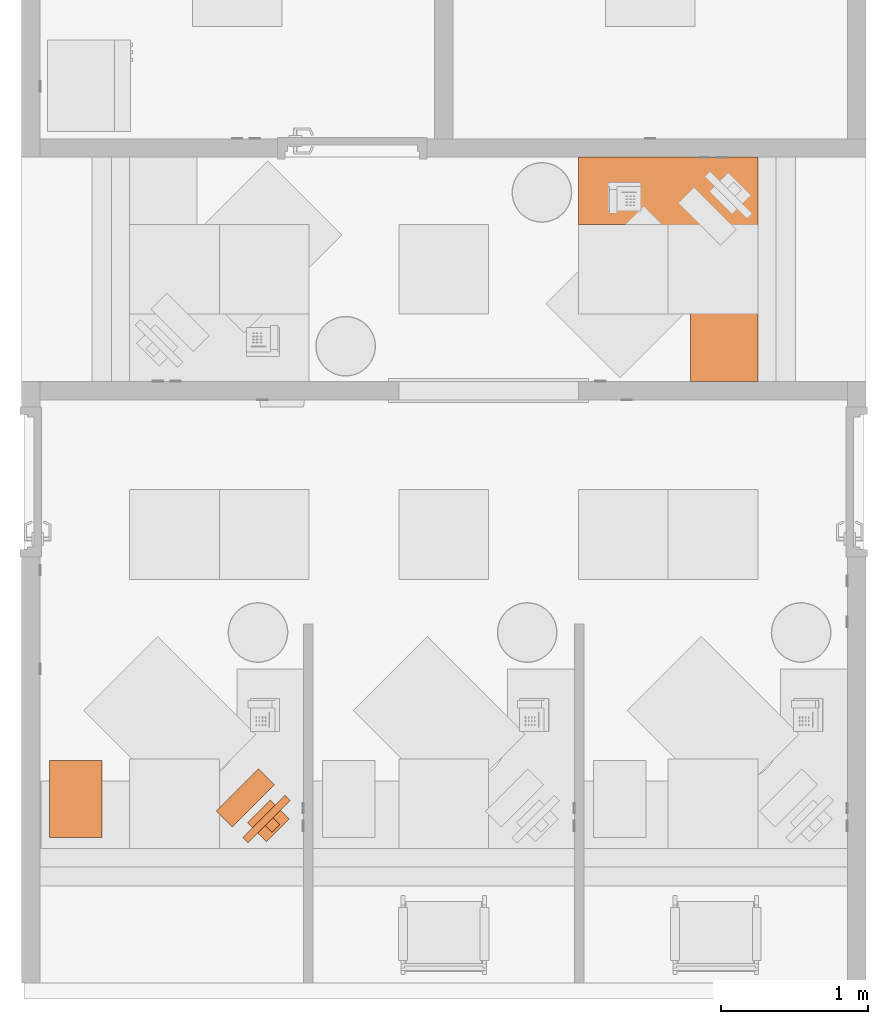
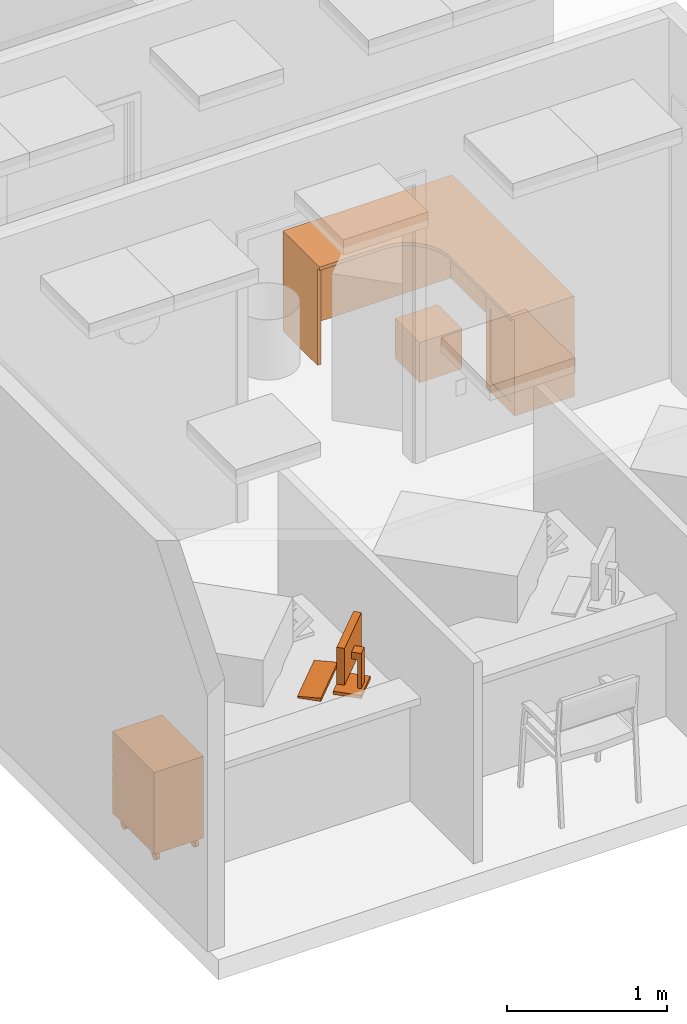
# One storey, part 12 of 20: 3 proxies.
"""IFC2X3 building model written with IfcOpenShell, lengths in feet."""

import ifcopenshell
import ifcopenshell.guid

model = None  # the IFC model being written
_history = None  # IfcOwnerHistory: only IFC2X3 demands one
_inside = {}  # id of a spatial element -> (the spatial element, [elements in it])
_under = {}  # id of a project, library or spatial element -> (it, [spatial elements below it])
_declared = {}  # id of a project -> (the project, [libraries it declares])
_typed = {}  # id of a type object -> (the type object, [elements of that type])
_made_of = {}  # id of a material, layer set ... -> (it, [elements and type objects made of it])


def new_model(schema):
    """Start an empty IFC model of exactly this schema.

    Asked for "IFC4X3", IfcOpenShell would pick the latest addendum, in which some entities
    have other attributes; the version numbers below select the first issue.
    IFC2X3 requires an IfcOwnerHistory on every rooted entity: one is made here for all.
    """
    global model, _history
    if schema == "IFC4X3":
        model = ifcopenshell.file(schema_version=(4, 3, 0, 0))
    else:
        model = ifcopenshell.file(schema=schema)
    _inside.clear()
    _under.clear()
    _declared.clear()
    _typed.clear()
    _made_of.clear()
    _history = None
    if model.schema == "IFC2X3":
        org = make("IfcOrganization", Name="unknown")
        user = make(
            "IfcPersonAndOrganization",
            ThePerson=make("IfcPerson", FamilyName="unknown"),
            TheOrganization=org,
        )
        app = make(
            "IfcApplication",
            ApplicationDeveloper=org,
            Version="unknown",
            ApplicationFullName="unknown",
            ApplicationIdentifier="unknown",
        )
        _history = make(
            "IfcOwnerHistory",
            OwningUser=user,
            OwningApplication=app,
            ChangeAction="ADDED",
            CreationDate=0,
        )
    return model


def make(cls, **values):
    """One entity of the class cls with the attributes given. An attribute that is None is left unset."""
    return model.create_entity(
        cls, **{name: value for name, value in values.items() if value is not None}
    )


def entity(cls, *values):
    """Any entity or typed value of the class cls, its attributes in the order of the schema. None: left unset."""
    e = model.create_entity(cls)
    for i, value in enumerate(values):
        if value is not None:
            e[i] = value
    return e


def rooted(cls, **values):
    """An entity with a GlobalId (a new one), such as an element, a storey or a relation."""
    return make(cls, GlobalId=ifcopenshell.guid.new(), OwnerHistory=_history, **values)


def si_unit(unit_type, name, prefix=None):
    """IfcSIUnit, for example si_unit("LENGTHUNIT", "METRE", prefix="MILLI")."""
    return make("IfcSIUnit", UnitType=unit_type, Prefix=prefix, Name=name)


def converted_unit(unit_type, name, factor, base, dimensions=None, offset=None):
    """IfcConversionBasedUnit, such as the inch: factor (a typed value) times the base unit."""
    return make(
        "IfcConversionBasedUnit"
        if offset is None
        else "IfcConversionBasedUnitWithOffset",
        ConversionOffset=offset,
        Dimensions=None
        if dimensions is None
        else entity("IfcDimensionalExponents", *dimensions),
        UnitType=unit_type,
        Name=name,
        ConversionFactor=make(
            "IfcMeasureWithUnit", ValueComponent=factor, UnitComponent=base
        ),
    )


def derived_unit(unit_type, elements):
    """IfcDerivedUnit: a product of units, each with its exponent."""
    return make(
        "IfcDerivedUnit",
        Elements=[
            make("IfcDerivedUnitElement", Unit=unit, Exponent=power)
            for unit, power in elements
        ],
        UnitType=unit_type,
    )


def assignment(units):
    """IfcUnitAssignment: the units of a project."""
    return None if units is None else make("IfcUnitAssignment", Units=units)


def point(xyz):
    """IfcCartesianPoint."""
    return None if xyz is None else make("IfcCartesianPoint", Coordinates=xyz)


def direction(xyz):
    """IfcDirection."""
    return None if xyz is None else make("IfcDirection", DirectionRatios=xyz)


def frame(location, z_axis=None, x_axis=None):
    """IfcAxis2Placement3D, a coordinate frame: its origin and axes. An axis left out is left unset."""
    return make(
        "IfcAxis2Placement3D",
        Location=point(location),
        Axis=direction(z_axis),
        RefDirection=direction(x_axis),
    )


def frame_2d(location, x_axis=None):
    """IfcAxis2Placement2D, a coordinate frame in the plane: its origin and x axis."""
    return make(
        "IfcAxis2Placement2D", Location=point(location), RefDirection=direction(x_axis)
    )


def origin():
    """The frame at (0, 0, 0) with its axes left unset."""
    return frame((0.0, 0.0, 0.0))


def place(relative_to, where):
    """IfcLocalPlacement: puts the frame where relative to a parent placement (None: the world)."""
    return make(
        "IfcLocalPlacement", PlacementRelTo=relative_to, RelativePlacement=where
    )


def context(
    kind, dimensions, precision=None, world=None, true_north=None, identifier=None
):
    """IfcGeometricRepresentationContext, for example the 3D "Model" context."""
    return make(
        "IfcGeometricRepresentationContext",
        ContextIdentifier=identifier,
        ContextType=kind,
        CoordinateSpaceDimension=dimensions,
        Precision=precision,
        WorldCoordinateSystem=world,
        TrueNorth=true_north,
    )


def subcontext(parent, identifier, kind, view, scale=None):
    """IfcGeometricRepresentationSubContext, for example "Body" below "Model"."""
    return make(
        "IfcGeometricRepresentationSubContext",
        ContextIdentifier=identifier,
        ContextType=kind,
        ParentContext=parent,
        TargetScale=scale,
        TargetView=view,
    )


def project(units=None, contexts=None):
    """IfcProject with its units and contexts."""
    return rooted(
        "IfcProject",
        Name="project",
        RepresentationContexts=contexts,
        UnitsInContext=assignment(units),
    )


def spatial(cls, under=None, at=None, **own):
    """A site, building, storey or space (cls), placed at a placement, below another one or the project."""
    s = rooted(cls, ObjectPlacement=at, **own)
    if under is not None:
        _under.setdefault(under.id(), (under, []))[1].append(s)
    return s


def polyline(points):
    """IfcPolyline through the points."""
    return make("IfcPolyline", Points=[point(p) for p in points])


def circle_curve(where, radius):
    """IfcCircle in the frame where."""
    return make("IfcCircle", Position=where, Radius=radius)


def parameter(value):
    """IfcParameterValue: where a trimmed curve begins or ends, as a parameter of its basis curve."""
    return model.create_entity("IfcParameterValue", value)


def trimmed(basis, trim1, trim2, sense, master):
    """IfcTrimmedCurve: the piece of a basis curve between two trims."""
    return make(
        "IfcTrimmedCurve",
        BasisCurve=basis,
        Trim1=trim1,
        Trim2=trim2,
        SenseAgreement=sense,
        MasterRepresentation=master,
    )


def segment(curve, same_sense, transition):
    """IfcCompositeCurveSegment."""
    return make(
        "IfcCompositeCurveSegment",
        Transition=transition,
        SameSense=same_sense,
        ParentCurve=curve,
    )


def composite_curve(segments, self_intersect=None):
    """IfcCompositeCurve: segments joined end to end."""
    return make("IfcCompositeCurve", Segments=segments, SelfIntersect=self_intersect)


def profile(cls, at=None, kind="AREA", **sizes):
    """A parametric profile (cls). Its sizes go by their IFC names, for example OverallWidth=200.0."""
    return make(cls, ProfileType=kind, Position=at, **sizes)


def rectangle(**sizes):
    """IfcRectangleProfileDef."""
    return profile("IfcRectangleProfileDef", **sizes)


def outline(outer, holes=None, kind="AREA"):
    """IfcArbitraryClosedProfileDef: a profile drawn as a closed curve; with holes, ...WithVoids."""
    if holes is None:
        return make("IfcArbitraryClosedProfileDef", ProfileType=kind, OuterCurve=outer)
    return make(
        "IfcArbitraryProfileDefWithVoids",
        ProfileType=kind,
        OuterCurve=outer,
        InnerCurves=holes,
    )


def extrude(swept, where, along, depth):
    """IfcExtrudedAreaSolid: the profile swept, set in the frame where, extruded along a direction by depth."""
    return make(
        "IfcExtrudedAreaSolid",
        SweptArea=swept,
        Position=where,
        ExtrudedDirection=direction(along),
        Depth=depth,
    )


def faces_of(points, faces, orient=None, outer=None):
    """IfcFace entities. A face is a list of loops; a loop is a list of indices into points, from 0.

    orient and outer hold one flag for each loop. By default every Orientation is true, the
    first loop of a face is its IfcFaceOuterBound and the others are IfcFaceBound.
    """
    made = []
    for i, loops in enumerate(faces):
        bounds = []
        for j, loop in enumerate(loops):
            is_outer = j == 0 if outer is None else outer[i][j]
            bounds.append(
                make(
                    "IfcFaceOuterBound" if is_outer else "IfcFaceBound",
                    Bound=make("IfcPolyLoop", Polygon=[points[k] for k in loop]),
                    Orientation=True if orient is None else orient[i][j],
                )
            )
        made.append(make("IfcFace", Bounds=bounds))
    return made


def faceted_brep(points, faces, orient=None, outer=None, voids=None):
    """IfcFacetedBrep: a solid bounded by flat faces; with voids (closed shells), ...WithVoids."""
    shared = [point(p) for p in points]
    hull = make("IfcClosedShell", CfsFaces=faces_of(shared, faces, orient, outer))
    if voids is None:
        return make("IfcFacetedBrep", Outer=hull)
    return make(
        "IfcFacetedBrepWithVoids",
        Outer=hull,
        Voids=[
            make(cls, CfsFaces=faces_of(shared, fs, o, b)) for cls, fs, o, b in voids
        ],
    )


def shape(context_of_items, identifier, shape_type, items):
    """IfcShapeRepresentation: the items that make up one representation, for example the "Body"."""
    return make(
        "IfcShapeRepresentation",
        ContextOfItems=context_of_items,
        RepresentationIdentifier=identifier,
        RepresentationType=shape_type,
        Items=items,
    )


def source(mapping_origin, context_of_items, identifier, shape_type, items):
    """IfcRepresentationMap: a shape defined once, which mapped items show again and again."""
    return make(
        "IfcRepresentationMap",
        MappingOrigin=mapping_origin,
        MappedRepresentation=shape(context_of_items, identifier, shape_type, items),
    )


def transform(
    local_origin,
    x_axis=None,
    y_axis=None,
    z_axis=None,
    scale=None,
    scale2=None,
    scale3=None,
    uniform=True,
):
    """IfcCartesianTransformationOperator3D, or its non-uniform kind. x_axis, y_axis, z_axis: its Axis1, 2, 3."""
    if uniform:
        return make(
            "IfcCartesianTransformationOperator3D",
            Axis1=direction(x_axis),
            Axis2=direction(y_axis),
            LocalOrigin=point(local_origin),
            Scale=scale,
            Axis3=direction(z_axis),
        )
    return make(
        "IfcCartesianTransformationOperator3DnonUniform",
        Axis1=direction(x_axis),
        Axis2=direction(y_axis),
        LocalOrigin=point(local_origin),
        Scale=scale,
        Axis3=direction(z_axis),
        Scale2=scale2,
        Scale3=scale3,
    )


def mapped(mapping_source, mapping_target):
    """IfcMappedItem: shows the shape of a source again, moved by a transform."""
    return make(
        "IfcMappedItem", MappingSource=mapping_source, MappingTarget=mapping_target
    )


def made_of(thing, what):
    """Note that an element or type object is made of a material, layer set ...; save() writes the relation."""
    if what is not None:
        _made_of.setdefault(what.id(), (what, []))[1].append(thing)
    return thing


def type_object(cls, material=None, **own):
    """A type object (cls), such as IfcWallType, which elements share."""
    return made_of(rooted(cls, **own), material)


def type_shapes(of_type, sources):
    """Give a type object the sources (RepresentationMaps) that its elements show as mapped items."""
    of_type.RepresentationMaps = sources


def element(
    cls,
    number,
    at=None,
    inside=None,
    cuts=None,
    type_object=None,
    material=None,
    context=None,
    identifier="Body",
    shape_type=None,
    held_by="IfcProductDefinitionShape",
    body=None,
    shapes=None,
    **own,
):
    """One element of the class cls, such as IfcWall. Its Tag is "e" and its number.

    at: its placement. inside: the storey or other place that contains it. cuts: it is an
    opening in that element (IfcRelVoidsElement). A single representation is given by context,
    identifier, shape_type and body (its items); several are given by shapes. held_by: the class
    of the entity that holds the representations. save() writes the other relations.
    """
    e = rooted(cls, Tag="e%d" % number, ObjectPlacement=at, **own)
    if body is not None:
        shapes = [shape(context, identifier, shape_type, body)]
    if shapes is not None:
        e.Representation = make(held_by, Representations=shapes)
    if inside is not None:
        _inside.setdefault(inside.id(), (inside, []))[1].append(e)
    if cuts is not None:
        rooted(
            "IfcRelVoidsElement", RelatingBuildingElement=cuts, RelatedOpeningElement=e
        )
    if type_object is not None:
        _typed.setdefault(type_object.id(), (type_object, []))[1].append(e)
    return made_of(e, material)


def aggregate(whole, parts):
    """IfcRelAggregates: a whole, such as a stair, and the parts it consists of."""
    return rooted("IfcRelAggregates", RelatingObject=whole, RelatedObjects=parts)


def save(model, path):
    """Write the relations noted so far, then the file.

    IfcRelAggregates (storeys below a building ...), IfcRelContainedInSpatialStructure (elements
    in a storey), IfcRelDefinesByType, IfcRelAssociatesMaterial and IfcRelDeclares: one each for
    every whole, place, type object, material and project.
    """
    for whole, parts in _under.values():
        aggregate(whole, parts)
    for where, things in _inside.values():
        rooted(
            "IfcRelContainedInSpatialStructure",
            RelatedElements=things,
            RelatingStructure=where,
        )
    for kind, things in _typed.values():
        rooted("IfcRelDefinesByType", RelatedObjects=things, RelatingType=kind)
    for what, things in _made_of.values():
        rooted("IfcRelAssociatesMaterial", RelatedObjects=things, RelatingMaterial=what)
    for by, libraries in _declared.values():
        rooted("IfcRelDeclares", RelatingContext=by, RelatedDefinitions=libraries)
    model.write(path)


model = new_model("IFC2X3")

# Units and contexts
model_context = context("Model", 3, precision=0.0001, world=origin(), true_north=direction((6.12303176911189e-17, 1.0)))
body_context = subcontext(model_context, "Body", "Model", "MODEL_VIEW")
ifc_project = project(units=[converted_unit("LENGTHUNIT", "FOOT", entity("IfcRatioMeasure", 0.3048), si_unit("LENGTHUNIT", "METRE"), dimensions=[1, 0, 0, 0, 0, 0, 0]), converted_unit("AREAUNIT", "SQUARE FOOT", entity("IfcRatioMeasure", 0.09290304), si_unit("AREAUNIT", "SQUARE_METRE"), dimensions=[2, 0, 0, 0, 0, 0, 0]), converted_unit("VOLUMEUNIT", "CUBIC FOOT", entity("IfcRatioMeasure", 0.028316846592), si_unit("VOLUMEUNIT", "CUBIC_METRE"), dimensions=[3, 0, 0, 0, 0, 0, 0]), converted_unit("PLANEANGLEUNIT", "DEGREE", entity("IfcRatioMeasure", 0.0174532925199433), si_unit("PLANEANGLEUNIT", "RADIAN"), dimensions=[0, 0, 0, 0, 0, 0, 0]), si_unit("MASSUNIT", "GRAM", prefix="KILO"), derived_unit("MASSDENSITYUNIT", [(si_unit("MASSUNIT", "GRAM", prefix="KILO"), 1), (si_unit("LENGTHUNIT", "METRE"), -3)]), si_unit("TIMEUNIT", "SECOND"), si_unit("FREQUENCYUNIT", "HERTZ"), si_unit("THERMODYNAMICTEMPERATUREUNIT", "DEGREE_CELSIUS"), derived_unit("THERMALTRANSMITTANCEUNIT", [(si_unit("MASSUNIT", "GRAM", prefix="KILO"), 1), (si_unit("THERMODYNAMICTEMPERATUREUNIT", "KELVIN"), -1), (si_unit("TIMEUNIT", "SECOND"), -3)]), derived_unit("VOLUMETRICFLOWRATEUNIT", [(si_unit("LENGTHUNIT", "METRE"), 3), (si_unit("TIMEUNIT", "SECOND"), -1)]), si_unit("ELECTRICCURRENTUNIT", "AMPERE"), si_unit("ELECTRICVOLTAGEUNIT", "VOLT"), si_unit("POWERUNIT", "WATT"), si_unit("FORCEUNIT", "NEWTON"), si_unit("ILLUMINANCEUNIT", "LUX"), si_unit("LUMINOUSFLUXUNIT", "LUMEN"), si_unit("LUMINOUSINTENSITYUNIT", "CANDELA"), derived_unit("USERDEFINED", [(si_unit("MASSUNIT", "GRAM", prefix="KILO"), -1), (si_unit("LENGTHUNIT", "METRE"), -2), (si_unit("TIMEUNIT", "SECOND"), 3), (si_unit("LUMINOUSFLUXUNIT", "LUMEN"), 1)]), derived_unit("LINEARVELOCITYUNIT", [(si_unit("LENGTHUNIT", "METRE"), 1), (si_unit("TIMEUNIT", "SECOND"), -1)]), si_unit("PRESSUREUNIT", "PASCAL"), derived_unit("USERDEFINED", [(si_unit("LENGTHUNIT", "METRE"), -2), (si_unit("MASSUNIT", "GRAM", prefix="KILO"), 1), (si_unit("TIMEUNIT", "SECOND"), -2)])], contexts=[model_context])

# Site, building, storey, space
site_placement = place(None, origin())
site = spatial("IfcSite", under=ifc_project, at=site_placement, Name="Default", CompositionType="ELEMENT")
building_placement = place(site_placement, origin())
building = spatial("IfcBuilding", under=site, at=building_placement, Name="OUTPATIENT / PACT CLINIC (Ch. 265)", CompositionType="ELEMENT")
storey_placement = place(building_placement, origin())
storey = spatial("IfcBuildingStorey", under=building, at=storey_placement, Name="DATUM", CompositionType="ELEMENT", Elevation=0.0)
space_1_placement = place(storey_placement, origin())
space_1 = spatial("IfcSpace", under=storey, at=space_1_placement, Name="RCP03", CompositionType="ELEMENT", InteriorOrExteriorSpace="INTERNAL")

# Proxy
building_element_proxy_type_1 = type_object("IfcBuildingElementProxyType", Name="M1801 - Computer with Flat Panel Monitor", PredefinedType="NOTDEFINED")
shared_shape_1 = source(origin(), body_context, "Body", "Brep", [
    faceted_brep([(0.666666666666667, -0.5625, 0.0), (0.666666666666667, -0.0624999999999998, 0.0), (0.666666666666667, -0.0624999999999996, 0.0833333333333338), (0.666666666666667, -0.5625, 0.0416666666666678), (-0.666666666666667, -0.5625, 0.0), (-0.666666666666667, -0.5625, 0.0416666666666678), (-0.666666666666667, -0.0624999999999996, 0.0833333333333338), (-0.666666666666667, -0.0624999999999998, 0.0)], [[[0, 1, 2, 3]], [[4, 5, 6, 7]], [[1, 0, 4, 7]], [[2, 1, 7, 6]], [[3, 2, 6, 5]], [[0, 3, 5, 4]]]),
    faceted_brep([(0.666666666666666, 0.437223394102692, 1.41666666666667), (-0.666666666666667, 0.437223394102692, 1.41666666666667), (-0.666666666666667, 0.271109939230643, 1.41666666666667), (0.666666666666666, 0.271109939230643, 1.41666666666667), (0.666666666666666, 0.437223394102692, 0.500000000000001), (0.666666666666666, 0.271109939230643, 0.500000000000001), (-0.666666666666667, 0.271109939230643, 0.500000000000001), (-0.666666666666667, 0.437223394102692, 0.500000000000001), (-0.625, 0.271109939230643, 1.375), (0.625, 0.271109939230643, 1.375), (0.625, 0.271109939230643, 0.541666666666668), (-0.625, 0.271109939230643, 0.541666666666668), (0.625, 0.286812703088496, 1.375), (-0.625, 0.286812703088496, 1.375), (0.625, 0.286812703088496, 0.541666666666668), (-0.625, 0.286812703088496, 0.541666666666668)], [[[0, 1, 2, 3]], [[4, 5, 6, 7]], [[1, 0, 4, 7]], [[2, 1, 7, 6]], [[3, 2, 6, 5], [8, 9, 10, 11]], [[0, 3, 5, 4]], [[12, 9, 8, 13]], [[14, 15, 11, 10]], [[12, 13, 15, 14]], [[13, 8, 11, 15]], [[9, 12, 14, 10]]]),
    faceted_brep([(0.358011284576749, 0.111770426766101, 0.0833333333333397), (0.358011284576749, 0.111770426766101, 0.0), (0.358011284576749, 0.708333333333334, 0.0), (0.358011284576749, 0.708333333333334, 0.0833333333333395), (-0.358011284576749, 0.708333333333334, 0.0833333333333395), (-0.358011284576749, 0.708333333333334, 0.0), (-0.358011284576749, 0.111770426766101, 0.0), (-0.358011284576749, 0.111770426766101, 0.0833333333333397), (0.12128795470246, 0.645556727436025, 0.104166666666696), (0.12128795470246, 0.645556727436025, 0.0833333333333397), (-0.12128795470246, 0.645556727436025, 0.0833333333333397), (-0.12128795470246, 0.645556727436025, 0.104166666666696), (0.12128795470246, 0.645556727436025, 0.958333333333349), (-0.12128795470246, 0.645556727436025, 0.958333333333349), (0.12128795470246, 0.437223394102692, 0.958333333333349), (-0.12128795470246, 0.437223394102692, 0.958333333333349), (0.12128795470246, 0.437223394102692, 0.791666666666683), (-0.12128795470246, 0.437223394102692, 0.791666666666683), (0.12128795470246, 0.562223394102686, 0.791666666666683), (-0.12128795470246, 0.562223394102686, 0.791666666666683), (0.12128795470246, 0.562223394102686, 0.0833333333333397), (-0.12128795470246, 0.562223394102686, 0.0833333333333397)], [[[0, 1, 2, 3]], [[4, 5, 6, 7]], [[8, 9, 10, 11]], [[12, 8, 11, 13]], [[14, 12, 13, 15]], [[16, 14, 15, 17]], [[18, 16, 17, 19]], [[20, 18, 19, 21]], [[0, 3, 4, 7], [9, 20, 21, 10]], [[1, 0, 7, 6]], [[2, 1, 6, 5]], [[3, 2, 5, 4]], [[20, 9, 8, 12, 14, 16, 18]], [[10, 21, 19, 17, 15, 13, 11]]]),
])
type_shapes(building_element_proxy_type_1, [shared_shape_1])
proxy_1_placement = place(space_1_placement, frame((61.0634999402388, -864.01781695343, 2.49999999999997), z_axis=(0.0, 0.0, 1.0), x_axis=(-0.707106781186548, -0.707106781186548, 0.0)))
element("IfcBuildingElementProxy", 1, at=proxy_1_placement, inside=space_1, type_object=building_element_proxy_type_1, Name="M1801 - Computer with Flat Panel Monitor:M1801 - Computer with Flat Panel Monitor", ObjectType="M1801 - Computer with Flat Panel Monitor", context=body_context, shape_type="MappedRepresentation", body=[
    mapped(shared_shape_1, transform((0.0, 0.0, 0.0), scale=1.0)),
])

# Space
space_2_placement = place(storey_placement, origin())
space_2 = spatial("IfcSpace", under=storey, at=space_2_placement, CompositionType="ELEMENT", InteriorOrExteriorSpace="INTERNAL")

# Proxies
building_element_proxy_type_2 = type_object("IfcBuildingElementProxyType", Name="E0130 - Workstation, Documentation, Operating, L-Shaped", PredefinedType="NOTDEFINED")
shared_shape_2 = source(origin(), body_context, "Body", "SweptSolid", [
    extrude(rectangle(XDim=0.0292050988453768, YDim=0.833333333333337, at=frame_2d((-5.55111512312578e-17, 0.0), x_axis=(1.0, 0.0))), frame((1.91666666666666, 0.621546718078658, 0.250000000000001), z_axis=(0.0, 0.0, 1.0), x_axis=(0.0, 1.0, 0.0)), (0.0, 0.0, 1.0), 1.83333333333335),
    extrude(outline(polyline([(-1.20833333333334, -0.583333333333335), (1.20833333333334, -0.583333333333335), (1.20833333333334, 0.583333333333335), (-1.20833333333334, 0.583333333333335), (-1.20833333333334, -0.583333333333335)]), holes=[polyline([(-0.875000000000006, -0.416666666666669), (-0.875000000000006, 0.416666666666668), (0.958333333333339, 0.416666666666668), (0.958333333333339, -0.416666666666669), (-0.875000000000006, -0.416666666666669)])]), frame((1.91666666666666, 0.583333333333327, 1.20833333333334), z_axis=(0.0, 1.0, 0.0), x_axis=(0.0, 0.0, -1.0)), (0.0, 0.0, 1.0), 0.0833333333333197),
    extrude(outline(polyline([(-0.305555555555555, 0.361111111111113), (0.694444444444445, 0.361111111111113), (0.694444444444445, 0.444444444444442), (-0.388888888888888, 0.444444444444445), (-0.388888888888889, -0.805555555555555), (-0.305555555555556, -0.805555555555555), (-0.305555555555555, 0.361111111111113)])), frame((1.72222222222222, 1.4722222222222, 0.0)), (0.0, 0.0, 1.0), 2.41666666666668),
    extrude(outline(polyline([(-1.86666666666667, -2.28333333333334), (2.13333333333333, -2.28333333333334), (2.13333333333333, -0.866666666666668), (2.05, -0.866666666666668), (2.05, -2.2), (-1.78333333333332, -2.20000000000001), (-1.78333333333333, 2.63333333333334), (-0.533333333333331, 2.63333333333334), (-0.53333333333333, 2.71666666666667), (-1.86666666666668, 2.71666666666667), (-1.86666666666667, -2.28333333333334)])), frame((-0.216666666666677, 0.133333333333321, 0.0), z_axis=(0.0, 0.0, 1.0), x_axis=(0.0, -1.0, 0.0)), (0.0, 0.0, 1.0), 2.41666666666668),
    extrude(outline(composite_curve([segment(polyline([(-2.78571428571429, -1.92857142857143), (2.21428571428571, -1.92857142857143)]), True, "CONTINUOUS"), segment(polyline([(2.21428571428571, -1.92857142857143), (2.21428571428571, 2.07142857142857)]), True, "CONTINUOUS"), segment(polyline([(2.21428571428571, 2.07142857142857), (0.714285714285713, 2.07142857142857)]), True, "CONTINUOUS"), segment(polyline([(0.714285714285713, 2.07142857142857), (0.714285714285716, 0.571428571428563)]), True, "CONTINUOUS"), segment(trimmed(circle_curve(frame_2d((-0.285714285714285, 0.571428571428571), x_axis=(-1.0, 0.0)), 1.0), [parameter(90.0)], [parameter(180.0)], True, "PARAMETER"), False, "CONTINUOUS"), segment(polyline([(-0.285714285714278, -0.428571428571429), (-2.78571428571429, -0.428571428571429)]), True, "CONTINUOUS"), segment(polyline([(-2.78571428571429, -0.428571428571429), (-2.78571428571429, -1.92857142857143)]), True, "CONTINUOUS")], self_intersect=False)), frame((-0.285714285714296, 0.07142857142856, 2.41666666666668), z_axis=(0.0, 0.0, 1.0), x_axis=(-1.0, 0.0, 0.0)), (0.0, 0.0, 1.0), 0.0833333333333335),
    extrude(rectangle(XDim=1.0, YDim=1.0, at=frame_2d((5.55111512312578e-17, 0.1), x_axis=(1.0, 0.0))), frame((-0.0999999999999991, 0.0, 0.0), z_axis=(0.0, 0.0, 1.0), x_axis=(0.0, -1.0, 0.0)), (0.0, 0.0, 1.0), 1.0),
])
type_shapes(building_element_proxy_type_2, [shared_shape_2])
proxy_2_placement = place(space_2_placement, frame((70.2641134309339, -852.018589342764, 0.0), z_axis=(0.0, 0.0, 1.0), x_axis=(0.0, -1.0, 0.0)))
element("IfcBuildingElementProxy", 2, at=proxy_2_placement, inside=space_2, type_object=building_element_proxy_type_2, Name="E0130 - Workstation, Documentation, Operating, L-Shaped:E0130 - Workstation, Documentation, Operating, L-Shaped", ObjectType="E0130 - Workstation, Documentation, Operating, L-Shaped", context=body_context, shape_type="MappedRepresentation", body=[
    mapped(shared_shape_2, transform((0.0, 0.0, 0.0), scale=1.0)),
])
building_element_proxy_type_3 = type_object("IfcBuildingElementProxyType", Name="F0404 - Pedestal File Mobile", PredefinedType="NOTDEFINED")
shared_shape_3 = source(origin(), body_context, "Body", "SweptSolid", [
    extrude(outline(polyline([(-0.583333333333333, -0.458333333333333), (0.583333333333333, -0.458333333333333), (0.583333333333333, 0.458333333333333), (-0.583333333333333, 0.458333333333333), (-0.583333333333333, -0.458333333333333)]), holes=[polyline([(0.33333333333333, 0.3125), (-0.333333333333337, 0.3125), (-0.333333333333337, 0.375), (0.33333333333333, 0.375), (0.33333333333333, 0.3125)])]), frame((0.0, -1.70833333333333, 0.708333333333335), z_axis=(0.0, 1.0, 0.0), x_axis=(-1.0, 0.0, 0.0)), (0.0, 0.0, 1.0), 0.0416666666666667),
    extrude(outline(polyline([(-0.583333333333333, -0.25), (0.583333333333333, -0.25), (0.583333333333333, 0.25), (-0.583333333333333, 0.25), (-0.583333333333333, -0.25)]), holes=[polyline([(0.333333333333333, 0.104166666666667), (-0.333333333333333, 0.104166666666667), (-0.333333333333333, 0.166666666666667), (0.333333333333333, 0.166666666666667), (0.333333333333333, 0.104166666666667)])]), frame((0.0, -1.70833333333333, 2.0), z_axis=(0.0, 1.0, 0.0), x_axis=(-1.0, 0.0, 0.0)), (0.0, 0.0, 1.0), 0.0416666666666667),
    extrude(outline(polyline([(-0.583333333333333, -0.25), (0.583333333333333, -0.25), (0.583333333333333, 0.25), (-0.583333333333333, 0.25), (-0.583333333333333, -0.25)]), holes=[polyline([(0.333333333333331, 0.104166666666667), (-0.333333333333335, 0.104166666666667), (-0.333333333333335, 0.166666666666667), (0.333333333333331, 0.166666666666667), (0.333333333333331, 0.104166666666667)])]), frame((0.0, -1.70833333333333, 1.45833333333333), z_axis=(0.0, 1.0, 0.0), x_axis=(-1.0, 0.0, 0.0)), (0.0, 0.0, 1.0), 0.0416666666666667),
    extrude(outline(polyline([(-0.541666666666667, -1.34722222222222), (1.125, -1.34722222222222), (1.125, 0.69444444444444), (-0.583333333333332, 0.694444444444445), (-0.583333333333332, 0.652777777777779), (-0.541666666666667, 0.652777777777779), (-0.541666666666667, -1.34722222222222)])), frame((-0.583333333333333, -1.125, 1.59722222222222), z_axis=(1.0, 0.0, 0.0), x_axis=(0.0, 1.0, 0.0)), (0.0, 0.0, 1.0), 1.16666666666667),
    extrude(outline(composite_curve([segment(polyline([(0.00520833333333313, -0.0520833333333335), (0.0468749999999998, -0.0520833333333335)]), True, "CONTINUOUS"), segment(polyline([(0.0468749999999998, -0.0520833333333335), (0.046875, 0.0520833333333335)]), True, "CONTINUOUS"), segment(polyline([(0.046875, 0.0520833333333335), (-0.0989583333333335, 0.0520833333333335)]), True, "CONTINUOUS"), segment(trimmed(circle_curve(frame_2d((-0.0989583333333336, -0.0520833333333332), x_axis=(0.0, 1.0)), 0.104166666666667), [parameter(360.0)], [parameter(270.0)], True, "PARAMETER"), True, "CONTINUOUS")], self_intersect=False)), frame((0.416666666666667, -0.197916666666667, 0.203125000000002), z_axis=(1.0, 0.0, 0.0), x_axis=(0.0, 0.0, 1.0)), (0.0, 0.0, 1.0), 0.0833333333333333),
    extrude(outline(composite_curve([segment(polyline([(0.00520833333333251, -0.052083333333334), (0.0468749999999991, -0.052083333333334)]), True, "CONTINUOUS"), segment(polyline([(0.0468749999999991, -0.052083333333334), (0.0468750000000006, 0.0520833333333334)]), True, "CONTINUOUS"), segment(polyline([(0.0468750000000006, 0.0520833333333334), (-0.0989583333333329, 0.052083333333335)]), True, "CONTINUOUS"), segment(trimmed(circle_curve(frame_2d((-0.0989583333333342, -0.0520833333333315), x_axis=(0.0, 1.0)), 0.104166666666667), [parameter(360.0)], [parameter(269.999999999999)], True, "PARAMETER"), True, "CONTINUOUS")], self_intersect=False)), frame((0.416666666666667, -1.46875, 0.203125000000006), z_axis=(1.0, 0.0, 0.0), x_axis=(0.0, 0.0, 1.0)), (0.0, 0.0, 1.0), 0.0833333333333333),
    extrude(outline(composite_curve([segment(polyline([(0.00520833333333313, -0.0520833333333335), (0.0468749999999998, -0.0520833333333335)]), True, "CONTINUOUS"), segment(polyline([(0.0468749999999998, -0.0520833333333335), (0.046875, 0.0520833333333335)]), True, "CONTINUOUS"), segment(polyline([(0.046875, 0.0520833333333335), (-0.0989583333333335, 0.0520833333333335)]), True, "CONTINUOUS"), segment(trimmed(circle_curve(frame_2d((-0.0989583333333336, -0.0520833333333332), x_axis=(0.0, 1.0)), 0.104166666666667), [parameter(360.0)], [parameter(270.0)], True, "PARAMETER"), True, "CONTINUOUS")], self_intersect=False)), frame((-0.5, -0.197916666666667, 0.203125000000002), z_axis=(1.0, 0.0, 0.0), x_axis=(0.0, 0.0, 1.0)), (0.0, 0.0, 1.0), 0.0833333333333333),
    extrude(outline(composite_curve([segment(polyline([(0.00520833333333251, -0.052083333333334), (0.0468749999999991, -0.052083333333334)]), True, "CONTINUOUS"), segment(polyline([(0.0468749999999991, -0.052083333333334), (0.0468750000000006, 0.0520833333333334)]), True, "CONTINUOUS"), segment(polyline([(0.0468750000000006, 0.0520833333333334), (-0.0989583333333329, 0.052083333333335)]), True, "CONTINUOUS"), segment(trimmed(circle_curve(frame_2d((-0.0989583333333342, -0.0520833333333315), x_axis=(0.0, 1.0)), 0.104166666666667), [parameter(360.0)], [parameter(269.999999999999)], True, "PARAMETER"), True, "CONTINUOUS")], self_intersect=False)), frame((-0.5, -1.46875, 0.203125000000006), z_axis=(1.0, 0.0, 0.0), x_axis=(0.0, 0.0, 1.0)), (0.0, 0.0, 1.0), 0.0833333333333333),
])
type_shapes(building_element_proxy_type_3, [shared_shape_3])
proxy_3_placement = place(space_1_placement, frame((57.0609884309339, -864.674839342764, 0.0), z_axis=(0.0, 0.0, 1.0), x_axis=(-1.0, 0.0, 0.0)))
element("IfcBuildingElementProxy", 3, at=proxy_3_placement, inside=space_1, type_object=building_element_proxy_type_3, Name="F0404 - Pedestal File Mobile:F0404 - Pedestal File Mobile", ObjectType="F0404 - Pedestal File Mobile", context=body_context, shape_type="MappedRepresentation", body=[
    mapped(shared_shape_3, transform((0.0, 0.0, 0.0), scale=1.0)),
])

save(model, "model.ifc")
